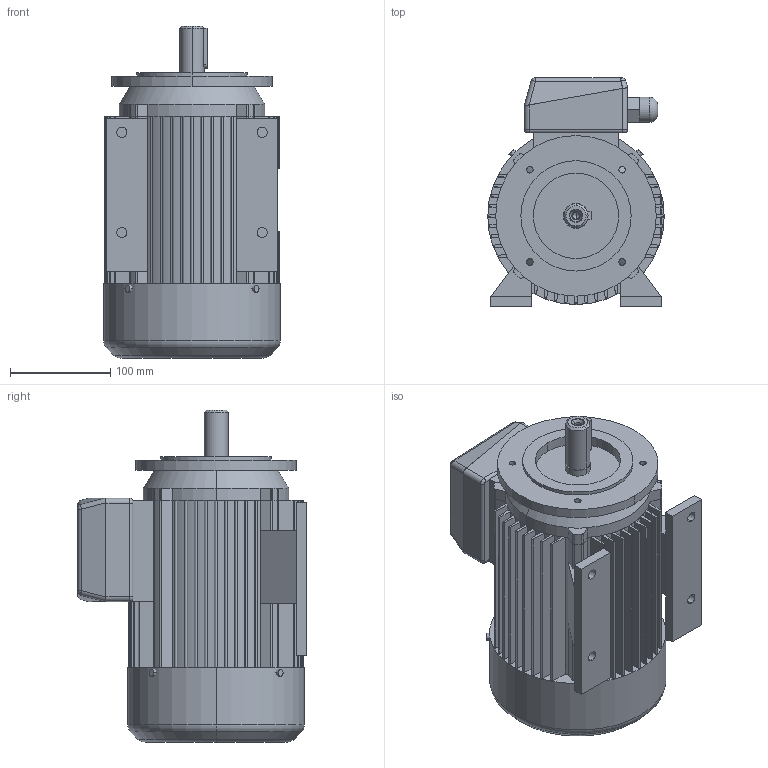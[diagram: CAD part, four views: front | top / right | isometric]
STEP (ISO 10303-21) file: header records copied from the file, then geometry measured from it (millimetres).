
FILE_DESCRIPTION (( 'STEP AP203' ), '1' );
FILE_NAME ('2SIEL90S2,4,6-B34-C1.STEP', '2013-01-07T12:46:44', ( 'INDUKTA' ), ( 'CANTONI MOTOR' ), 'SwSTEP 2.0', 'SolidWorks 2003064', '' );
FILE_SCHEMA (( 'CONFIG_CONTROL_DESIGN' ));
Length unit declared in the file: millimetre
Products named in the file (1): 2SIEL90S2,4,6-B34-C1
Bounding box: 176 x 228 x 331 mm (x, y, z)
Volume: 6442264 mm3; surface area: 537877.5 mm2
Topology: 13 solids, 13 shells, 408 faces, 1075 edges, 688 vertices
Faces by surface type: plane 192, cylinder 188, cone 14, torus 10, sphere 4
Entity records: 12726 total; most frequent: DIRECTION 2306, CARTESIAN_POINT 2227, ORIENTED_EDGE 2138, EDGE_CURVE 1069, AXIS2_PLACEMENT_3D 839, VERTEX_POINT 688, VECTOR 628, LINE 628
